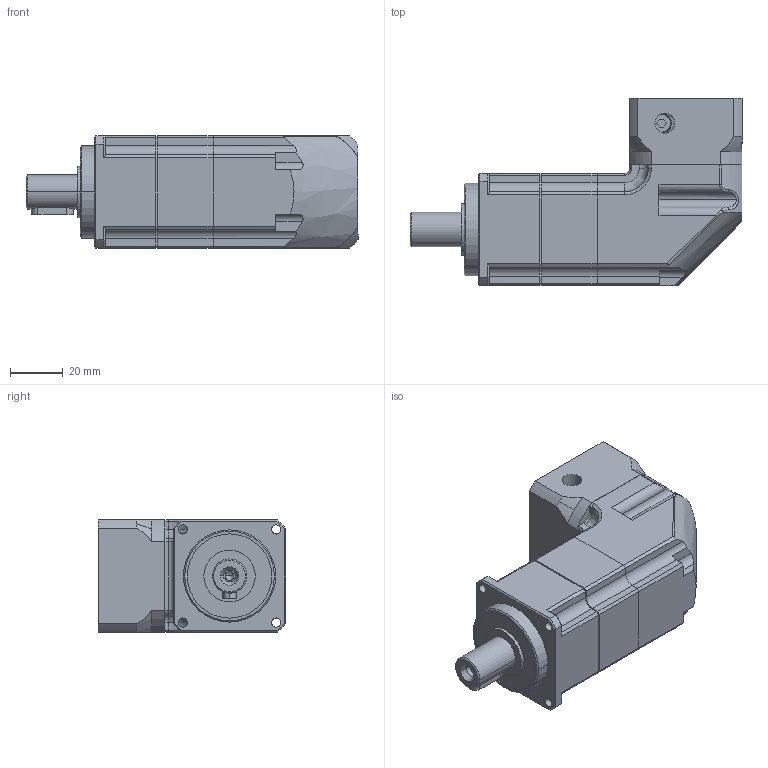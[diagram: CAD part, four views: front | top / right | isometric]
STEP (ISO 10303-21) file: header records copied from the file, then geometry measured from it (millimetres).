
FILE_DESCRIPTION (( 'STEP AP214' ), '1' );
FILE_NAME ('PAR042-L2-S2-P1 8-30-45-M3.STEP', '2023-08-04T03:13:02', ( '微软用户' ), ( '微软中国' ), 'SwSTEP 2.0', 'SolidWorks 2018', '' );
FILE_SCHEMA (( 'AUTOMOTIVE_DESIGN' ));
Length unit declared in the file: millimetre
Products named in the file (9): GB／T70．1-2000内六角圆柱头螺钉M4×12; PAR042-CQ01_PD42-CQ01+CQ02; PAR042-眊极; PAR042-SJH(坶踡遠謂11); GB／T276-94深沟球轴承6002-2Z; PAR042-L2-S2-P1 8-30-45-M3; PAR042-喘謫粣_GearTrax; 5X5X16; PAR042-蟀諉啣
Assembly tree (8 placements, depth 2):
  PAR042-L2-S2-P1 8-30-45-M3
    PAR042-眊极
    PAR042-CQ01_PD42-CQ01+CQ02
    GB／T276-94深沟球轴承6002-2Z
    PAR042-喘謫粣_GearTrax
    PAR042-蟀諉啣
    PAR042-SJH(坶踡遠謂11)
    GB／T70．1-2000内六角圆柱头螺钉M4×12
    5X5X16
Bounding box: 126 x 71.1 x 42.6 mm (x, y, z)
Volume: 192173 mm3; surface area: 47825.9 mm2
Topology: 8 solids, 9 shells, 615 faces, 1652 edges, 1056 vertices
Faces by surface type: cylinder 219, plane 185, bspline 137, cone 74
Entity records: 31256 total; most frequent: CARTESIAN_POINT 9640, ORIENTED_EDGE 3264, DIRECTION 2840, EDGE_CURVE 1632, AXIS2_PLACEMENT_3D 1144, VERTEX_POINT 1056, EDGE_LOOP 708, CIRCLE 655
